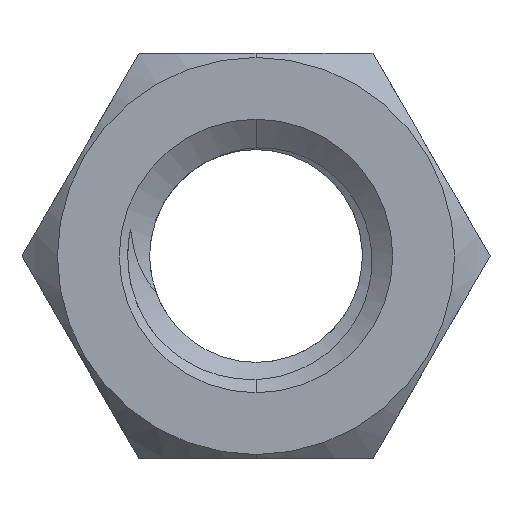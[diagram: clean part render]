
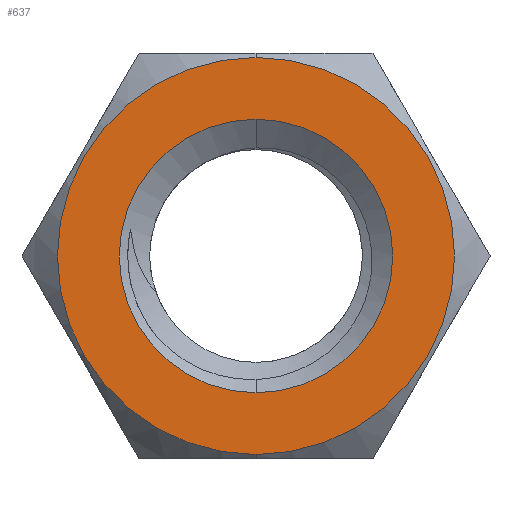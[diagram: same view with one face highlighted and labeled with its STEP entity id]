
A CAD part, front view. The second image highlights one B-rep face of the part: STEP entity #637.
In plain terms, the highlighted planar face has unit normal (0, -1, 0).
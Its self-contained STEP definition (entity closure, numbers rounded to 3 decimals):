
#14 = CIRCLE ( 'NONE', #1017, 2.7 ) ;
#20 = AXIS2_PLACEMENT_3D ( 'NONE', #1115, #35, #1513 ) ;
#35 = DIRECTION ( 'NONE',  ( 0., 1., 0. ) ) ;
#186 = CARTESIAN_POINT ( 'NONE',  ( 0., -2., 0. ) ) ;
#247 = ORIENTED_EDGE ( 'NONE', *, *, #1820, .F. ) ;
#334 = DIRECTION ( 'NONE',  ( 0., 0., -1. ) ) ;
#363 = CARTESIAN_POINT ( 'NONE',  ( 0., -2., -3.919 ) ) ;
#388 = PLANE ( 'NONE',  #20 ) ;
#434 = CARTESIAN_POINT ( 'NONE',  ( 0., -2., 0. ) ) ;
#484 = CARTESIAN_POINT ( 'NONE',  ( 0., -2., 2.7 ) ) ;
#511 = VERTEX_POINT ( 'NONE', #2232 ) ;
#521 = CARTESIAN_POINT ( 'NONE',  ( 0., -2., -2.7 ) ) ;
#634 = DIRECTION ( 'NONE',  ( 0., -1., 0. ) ) ;
#637 = ADVANCED_FACE ( 'NONE', ( #2045, #778 ), #388, .F. ) ;
#638 = CIRCLE ( 'NONE', #2302, 2.7 ) ;
#722 = CARTESIAN_POINT ( 'NONE',  ( 0., -2., 0. ) ) ;
#778 = FACE_OUTER_BOUND ( 'NONE', #1160, .T. ) ;
#780 = CIRCLE ( 'NONE', #1281, 3.919 ) ;
#804 = ORIENTED_EDGE ( 'NONE', *, *, #905, .T. ) ;
#874 = CARTESIAN_POINT ( 'NONE',  ( 0., -2., 0. ) ) ;
#877 = DIRECTION ( 'NONE',  ( 0., 0., -1. ) ) ;
#905 = EDGE_CURVE ( 'NONE', #2118, #511, #1444, .T. ) ;
#1017 = AXIS2_PLACEMENT_3D ( 'NONE', #722, #1640, #877 ) ;
#1052 = VERTEX_POINT ( 'NONE', #484 ) ;
#1115 = CARTESIAN_POINT ( 'NONE',  ( 0., -2., 0. ) ) ;
#1149 = ORIENTED_EDGE ( 'NONE', *, *, #2172, .T. ) ;
#1160 = EDGE_LOOP ( 'NONE', ( #1149, #804 ) ) ;
#1281 = AXIS2_PLACEMENT_3D ( 'NONE', #186, #1838, #1795 ) ;
#1359 = AXIS2_PLACEMENT_3D ( 'NONE', #434, #634, #1364 ) ;
#1364 = DIRECTION ( 'NONE',  ( 0., 0., -1. ) ) ;
#1444 = CIRCLE ( 'NONE', #1359, 3.919 ) ;
#1513 = DIRECTION ( 'NONE',  ( 0., 0., 1. ) ) ;
#1602 = DIRECTION ( 'NONE',  ( 0., -1., 0. ) ) ;
#1640 = DIRECTION ( 'NONE',  ( 0., -1., 0. ) ) ;
#1795 = DIRECTION ( 'NONE',  ( 0., 0., -1. ) ) ;
#1797 = ORIENTED_EDGE ( 'NONE', *, *, #1912, .F. ) ;
#1820 = EDGE_CURVE ( 'NONE', #2121, #1052, #14, .T. ) ;
#1838 = DIRECTION ( 'NONE',  ( 0., -1., 0. ) ) ;
#1842 = EDGE_LOOP ( 'NONE', ( #1797, #247 ) ) ;
#1912 = EDGE_CURVE ( 'NONE', #1052, #2121, #638, .T. ) ;
#2045 = FACE_BOUND ( 'NONE', #1842, .T. ) ;
#2118 = VERTEX_POINT ( 'NONE', #363 ) ;
#2121 = VERTEX_POINT ( 'NONE', #521 ) ;
#2172 = EDGE_CURVE ( 'NONE', #511, #2118, #780, .T. ) ;
#2232 = CARTESIAN_POINT ( 'NONE',  ( 0., -2., 3.919 ) ) ;
#2302 = AXIS2_PLACEMENT_3D ( 'NONE', #874, #1602, #334 ) ;
